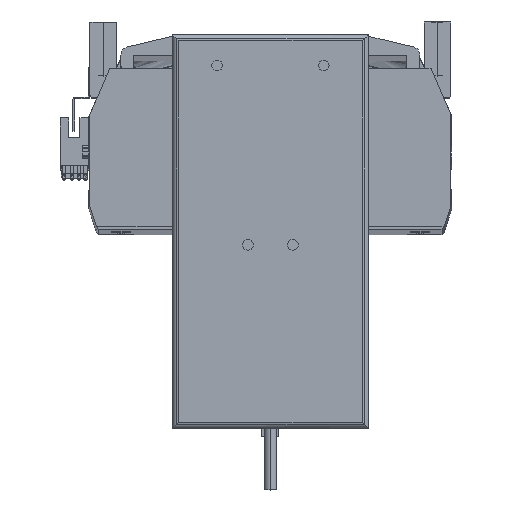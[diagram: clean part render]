
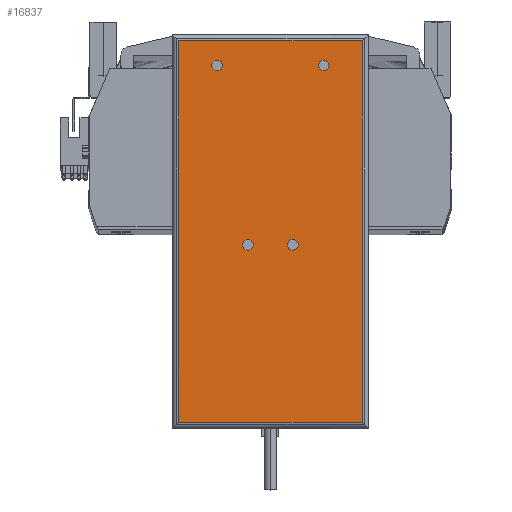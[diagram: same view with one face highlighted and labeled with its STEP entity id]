
A CAD part, top view. The second image highlights one B-rep face of the part: STEP entity #16837.
In plain terms, the highlighted planar face has unit normal (0, 0, 1) as drawn and (0, 0, -1) by its records, which use the part's own axes.
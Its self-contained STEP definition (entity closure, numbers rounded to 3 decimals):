
#661 = CARTESIAN_POINT ( 'NONE',  ( 22.5, 77.75, 0. ) ) ;
#765 = DIRECTION ( 'NONE',  ( -1., 0., 0. ) ) ;
#1284 = FACE_BOUND ( 'NONE', #28193, .T. ) ;
#1898 = FACE_BOUND ( 'NONE', #3322, .T. ) ;
#1990 = DIRECTION ( 'NONE',  ( -1., 0., 0. ) ) ;
#2085 = CARTESIAN_POINT ( 'NONE',  ( -27.5, 77.75, 0. ) ) ;
#2269 = CARTESIAN_POINT ( 'NONE',  ( 8., -6.25, 0. ) ) ;
#2899 = EDGE_CURVE ( 'NONE', #3659, #9675, #46565, .T. ) ;
#3137 = FACE_BOUND ( 'NONE', #41592, .T. ) ;
#3311 = CARTESIAN_POINT ( 'NONE',  ( -25., 77.75, 0. ) ) ;
#3322 = EDGE_LOOP ( 'NONE', ( #29762, #20322 ) ) ;
#3659 = VERTEX_POINT ( 'NONE', #36777 ) ;
#5804 = EDGE_CURVE ( 'NONE', #36530, #40809, #42207, .T. ) ;
#6113 = CARTESIAN_POINT ( 'NONE',  ( -8., -6.25, 0. ) ) ;
#6853 = ORIENTED_EDGE ( 'NONE', *, *, #42982, .T. ) ;
#7439 = ORIENTED_EDGE ( 'NONE', *, *, #20698, .T. ) ;
#7813 = EDGE_CURVE ( 'NONE', #40809, #36530, #49160, .T. ) ;
#8031 = CARTESIAN_POINT ( 'NONE',  ( -22.5, 77.75, 0. ) ) ;
#8215 = CIRCLE ( 'NONE', #19031, 2.5 ) ;
#8520 = CARTESIAN_POINT ( 'NONE',  ( -46., -92.25, 0. ) ) ;
#8661 = CARTESIAN_POINT ( 'NONE',  ( -10.5, -6.25, 0. ) ) ;
#8875 = CARTESIAN_POINT ( 'NONE',  ( -13., -6.25, 0. ) ) ;
#8887 = ORIENTED_EDGE ( 'NONE', *, *, #2899, .F. ) ;
#8946 = AXIS2_PLACEMENT_3D ( 'NONE', #8520, #40251, #47720 ) ;
#9675 = VERTEX_POINT ( 'NONE', #2269 ) ;
#10846 = DIRECTION ( 'NONE',  ( 0., 0., -1. ) ) ;
#11570 = DIRECTION ( 'NONE',  ( 0., 0., -1. ) ) ;
#11673 = EDGE_CURVE ( 'NONE', #12662, #35786, #31777, .T. ) ;
#12231 = CARTESIAN_POINT ( 'NONE',  ( -46., -89.25, 0. ) ) ;
#12662 = VERTEX_POINT ( 'NONE', #8875 ) ;
#13082 = AXIS2_PLACEMENT_3D ( 'NONE', #8661, #11570, #47518 ) ;
#13286 = CARTESIAN_POINT ( 'NONE',  ( 27.5, 77.75, 0. ) ) ;
#13661 = EDGE_LOOP ( 'NONE', ( #7439, #50504, #32850, #6853 ) ) ;
#13903 = EDGE_CURVE ( 'NONE', #35786, #12662, #38873, .T. ) ;
#13920 = CARTESIAN_POINT ( 'NONE',  ( 43., 89.25, 0. ) ) ;
#14131 = CARTESIAN_POINT ( 'NONE',  ( 25., 77.75, 0. ) ) ;
#14611 = VERTEX_POINT ( 'NONE', #29208 ) ;
#15751 = CARTESIAN_POINT ( 'NONE',  ( -43., -92.25, 0. ) ) ;
#15970 = FACE_OUTER_BOUND ( 'NONE', #13661, .T. ) ;
#16210 = CARTESIAN_POINT ( 'NONE',  ( -43., -89.25, 0. ) ) ;
#16585 = CARTESIAN_POINT ( 'NONE',  ( 43., -89.25, 0. ) ) ;
#16739 = VECTOR ( 'NONE', #19324, 1000. ) ;
#16837 = ADVANCED_FACE ( 'NONE', ( #15970, #1284, #3137, #18421, #1898 ), #36183, .F. ) ;
#16869 = EDGE_CURVE ( 'NONE', #50385, #21421, #19002, .T. ) ;
#17712 = DIRECTION ( 'NONE',  ( 0., 0., -1. ) ) ;
#17923 = CIRCLE ( 'NONE', #38301, 2.5 ) ;
#17936 = ORIENTED_EDGE ( 'NONE', *, *, #13903, .F. ) ;
#18421 = FACE_BOUND ( 'NONE', #29862, .T. ) ;
#19002 = CIRCLE ( 'NONE', #46522, 2.5 ) ;
#19031 = AXIS2_PLACEMENT_3D ( 'NONE', #3311, #10846, #34033 ) ;
#19244 = DIRECTION ( 'NONE',  ( 0., -1., 0. ) ) ;
#19324 = DIRECTION ( 'NONE',  ( 0., 1., 0. ) ) ;
#19424 = DIRECTION ( 'NONE',  ( -1., 0., 0. ) ) ;
#19784 = VERTEX_POINT ( 'NONE', #13920 ) ;
#19907 = CARTESIAN_POINT ( 'NONE',  ( 10.5, -6.25, 0. ) ) ;
#20322 = ORIENTED_EDGE ( 'NONE', *, *, #5804, .F. ) ;
#20698 = EDGE_CURVE ( 'NONE', #19784, #35183, #30880, .T. ) ;
#21421 = VERTEX_POINT ( 'NONE', #2085 ) ;
#23026 = AXIS2_PLACEMENT_3D ( 'NONE', #14131, #17712, #1990 ) ;
#23544 = DIRECTION ( 'NONE',  ( 0., 0., -1. ) ) ;
#24377 = DIRECTION ( 'NONE',  ( -1., 0., 0. ) ) ;
#24790 = VECTOR ( 'NONE', #19244, 1000. ) ;
#25438 = EDGE_CURVE ( 'NONE', #47326, #14611, #41178, .T. ) ;
#27418 = LINE ( 'NONE', #12231, #42711 ) ;
#27758 = CARTESIAN_POINT ( 'NONE',  ( -10.5, -6.25, 0. ) ) ;
#27896 = DIRECTION ( 'NONE',  ( -1., 0., 0. ) ) ;
#27937 = VECTOR ( 'NONE', #34300, 1000. ) ;
#28193 = EDGE_LOOP ( 'NONE', ( #39581, #17936 ) ) ;
#28441 = DIRECTION ( 'NONE',  ( -1., 0., 0. ) ) ;
#29208 = CARTESIAN_POINT ( 'NONE',  ( -43., 89.25, 0. ) ) ;
#29762 = ORIENTED_EDGE ( 'NONE', *, *, #7813, .F. ) ;
#29802 = AXIS2_PLACEMENT_3D ( 'NONE', #27758, #23544, #19424 ) ;
#29862 = EDGE_LOOP ( 'NONE', ( #35840, #42016 ) ) ;
#30354 = CARTESIAN_POINT ( 'NONE',  ( -46., 89.25, 0. ) ) ;
#30772 = AXIS2_PLACEMENT_3D ( 'NONE', #43808, #31852, #24377 ) ;
#30880 = LINE ( 'NONE', #34602, #24790 ) ;
#31777 = CIRCLE ( 'NONE', #13082, 2.5 ) ;
#31852 = DIRECTION ( 'NONE',  ( 0., 0., -1. ) ) ;
#32266 = EDGE_CURVE ( 'NONE', #35183, #47326, #27418, .T. ) ;
#32850 = ORIENTED_EDGE ( 'NONE', *, *, #25438, .T. ) ;
#32851 = LINE ( 'NONE', #30354, #27937 ) ;
#34033 = DIRECTION ( 'NONE',  ( -1., 0., 0. ) ) ;
#34243 = AXIS2_PLACEMENT_3D ( 'NONE', #47716, #44171, #28441 ) ;
#34300 = DIRECTION ( 'NONE',  ( 1., 0., 0. ) ) ;
#34602 = CARTESIAN_POINT ( 'NONE',  ( 43., -92.25, 0. ) ) ;
#35183 = VERTEX_POINT ( 'NONE', #16585 ) ;
#35786 = VERTEX_POINT ( 'NONE', #6113 ) ;
#35840 = ORIENTED_EDGE ( 'NONE', *, *, #36243, .F. ) ;
#35856 = DIRECTION ( 'NONE',  ( -1., 0., 0. ) ) ;
#36183 = PLANE ( 'NONE',  #8946 ) ;
#36243 = EDGE_CURVE ( 'NONE', #21421, #50385, #8215, .T. ) ;
#36530 = VERTEX_POINT ( 'NONE', #13286 ) ;
#36777 = CARTESIAN_POINT ( 'NONE',  ( 13., -6.25, 0. ) ) ;
#38301 = AXIS2_PLACEMENT_3D ( 'NONE', #19907, #47169, #27896 ) ;
#38873 = CIRCLE ( 'NONE', #29802, 2.5 ) ;
#39581 = ORIENTED_EDGE ( 'NONE', *, *, #11673, .F. ) ;
#39588 = CARTESIAN_POINT ( 'NONE',  ( -25., 77.75, 0. ) ) ;
#40251 = DIRECTION ( 'NONE',  ( 0., 0., 1. ) ) ;
#40809 = VERTEX_POINT ( 'NONE', #661 ) ;
#41178 = LINE ( 'NONE', #15751, #16739 ) ;
#41592 = EDGE_LOOP ( 'NONE', ( #42076, #8887 ) ) ;
#42016 = ORIENTED_EDGE ( 'NONE', *, *, #16869, .F. ) ;
#42076 = ORIENTED_EDGE ( 'NONE', *, *, #47540, .F. ) ;
#42207 = CIRCLE ( 'NONE', #23026, 2.5 ) ;
#42711 = VECTOR ( 'NONE', #765, 1000. ) ;
#42982 = EDGE_CURVE ( 'NONE', #14611, #19784, #32851, .T. ) ;
#43503 = DIRECTION ( 'NONE',  ( 0., 0., -1. ) ) ;
#43808 = CARTESIAN_POINT ( 'NONE',  ( 10.5, -6.25, 0. ) ) ;
#44171 = DIRECTION ( 'NONE',  ( 0., 0., -1. ) ) ;
#46522 = AXIS2_PLACEMENT_3D ( 'NONE', #39588, #43503, #35856 ) ;
#46565 = CIRCLE ( 'NONE', #30772, 2.5 ) ;
#47169 = DIRECTION ( 'NONE',  ( 0., 0., -1. ) ) ;
#47326 = VERTEX_POINT ( 'NONE', #16210 ) ;
#47518 = DIRECTION ( 'NONE',  ( -1., 0., 0. ) ) ;
#47540 = EDGE_CURVE ( 'NONE', #9675, #3659, #17923, .T. ) ;
#47716 = CARTESIAN_POINT ( 'NONE',  ( 25., 77.75, 0. ) ) ;
#47720 = DIRECTION ( 'NONE',  ( 1., 0., 0. ) ) ;
#49160 = CIRCLE ( 'NONE', #34243, 2.5 ) ;
#50385 = VERTEX_POINT ( 'NONE', #8031 ) ;
#50504 = ORIENTED_EDGE ( 'NONE', *, *, #32266, .T. ) ;
